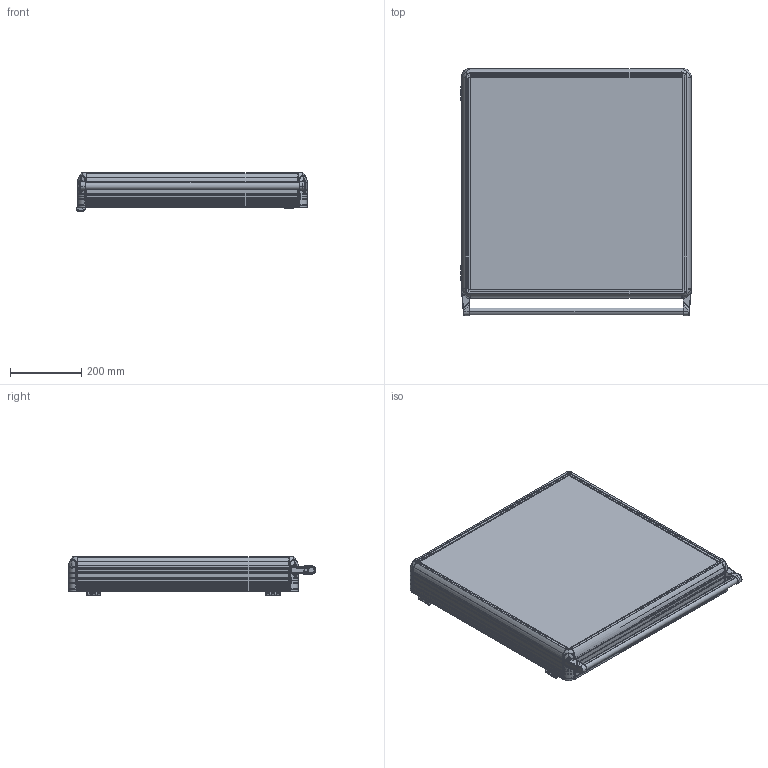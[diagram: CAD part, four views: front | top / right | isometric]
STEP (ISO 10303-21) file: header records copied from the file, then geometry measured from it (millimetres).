
FILE_DESCRIPTION (( 'STEP AP214' ), '1' );
FILE_NAME ('9000-0116.STEP', '2022-09-01T06:28:54', ( '' ), ( '' ), 'SwSTEP 2.0', 'SolidWorks 2022', '' );
FILE_SCHEMA (( 'AUTOMOTIVE_DESIGN' ));
Length unit declared in the file: millimetre
Products named in the file (8): HPECO-090-001-295_595; ECO9000-0100(SOL); ECO9000-0100(SAÐ); ECO9000-0000; boru_625; 9000-0116; 600X600; ARKA_KAPAK_600X600
Assembly tree (11 placements, depth 2):
  9000-0116
    600X600
    ARKA_KAPAK_600X600
    HPECO-090-001-295_595  x4
    ECO9000-0100(SAÐ)
    ECO9000-0100(SOL)
    ECO9000-0000  x2
    boru_625
Bounding box: 649.03 x 695.78 x 109.16 mm (x, y, z)
Volume: 3690865 mm3; surface area: 2919334.9 mm2
Topology: 20 solids, 70 shells, 6669 faces, 17880 edges, 11100 vertices
Faces by surface type: plane 2684, cylinder 1924, bspline 1133, cone 578, torus 300, sphere 50
Entity records: 242967 total; most frequent: CARTESIAN_POINT 67475, ORIENTED_EDGE 27848, DIRECTION 22689, EDGE_CURVE 13924, VERTEX_POINT 8648, AXIS2_PLACEMENT_3D 8213, LINE 6263, VECTOR 6263
